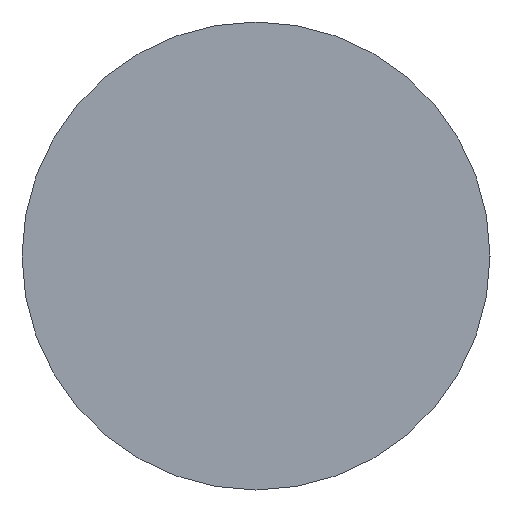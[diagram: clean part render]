
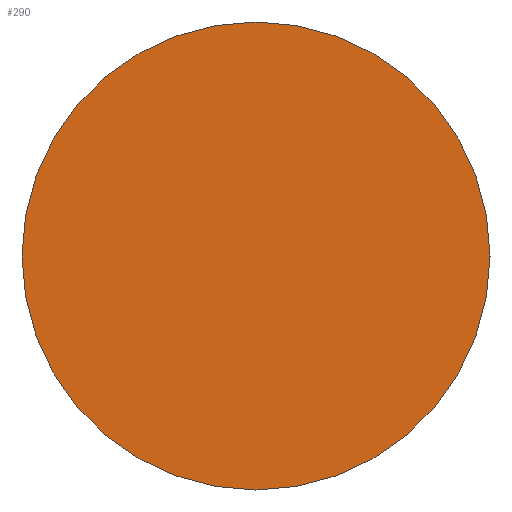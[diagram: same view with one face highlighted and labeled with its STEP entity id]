
A CAD part, left-side view. The second image highlights one B-rep face of the part: STEP entity #290.
In plain terms, the highlighted planar face has unit normal (-1, 0, 0).
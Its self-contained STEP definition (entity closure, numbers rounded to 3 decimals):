
#3 = AXIS2_PLACEMENT_3D ( 'NONE', #167, #165, #18 ) ;
#18 = DIRECTION ( 'NONE',  ( 0., 0., 1. ) ) ;
#23 = DIRECTION ( 'NONE',  ( 0., 0., -1. ) ) ;
#27 = AXIS2_PLACEMENT_3D ( 'NONE', #186, #209, #213 ) ;
#43 = AXIS2_PLACEMENT_3D ( 'NONE', #205, #149, #23 ) ;
#117 = VERTEX_POINT ( 'NONE', #223 ) ;
#121 = CIRCLE ( 'NONE', #3, 1.1 ) ;
#143 = ORIENTED_EDGE ( 'NONE', *, *, #253, .T. ) ;
#147 = EDGE_CURVE ( 'NONE', #117, #153, #271, .T. ) ;
#149 = DIRECTION ( 'NONE',  ( 1., 0., 0. ) ) ;
#153 = VERTEX_POINT ( 'NONE', #154 ) ;
#154 = CARTESIAN_POINT ( 'NONE',  ( 0., 0., -1.1 ) ) ;
#160 = ORIENTED_EDGE ( 'NONE', *, *, #147, .T. ) ;
#165 = DIRECTION ( 'NONE',  ( -1., 0., 0. ) ) ;
#167 = CARTESIAN_POINT ( 'NONE',  ( 0., 0., 0. ) ) ;
#186 = CARTESIAN_POINT ( 'NONE',  ( 0., 0., 0. ) ) ;
#205 = CARTESIAN_POINT ( 'NONE',  ( 0., 0., 0. ) ) ;
#209 = DIRECTION ( 'NONE',  ( -1., 0., 0. ) ) ;
#213 = DIRECTION ( 'NONE',  ( 0., 0., 1. ) ) ;
#216 = FACE_OUTER_BOUND ( 'NONE', #261, .T. ) ;
#223 = CARTESIAN_POINT ( 'NONE',  ( 0., 0., 1.1 ) ) ;
#250 = PLANE ( 'NONE',  #43 ) ;
#253 = EDGE_CURVE ( 'NONE', #153, #117, #121, .T. ) ;
#261 = EDGE_LOOP ( 'NONE', ( #160, #143 ) ) ;
#271 = CIRCLE ( 'NONE', #27, 1.1 ) ;
#290 = ADVANCED_FACE ( 'NONE', ( #216 ), #250, .F. ) ;
